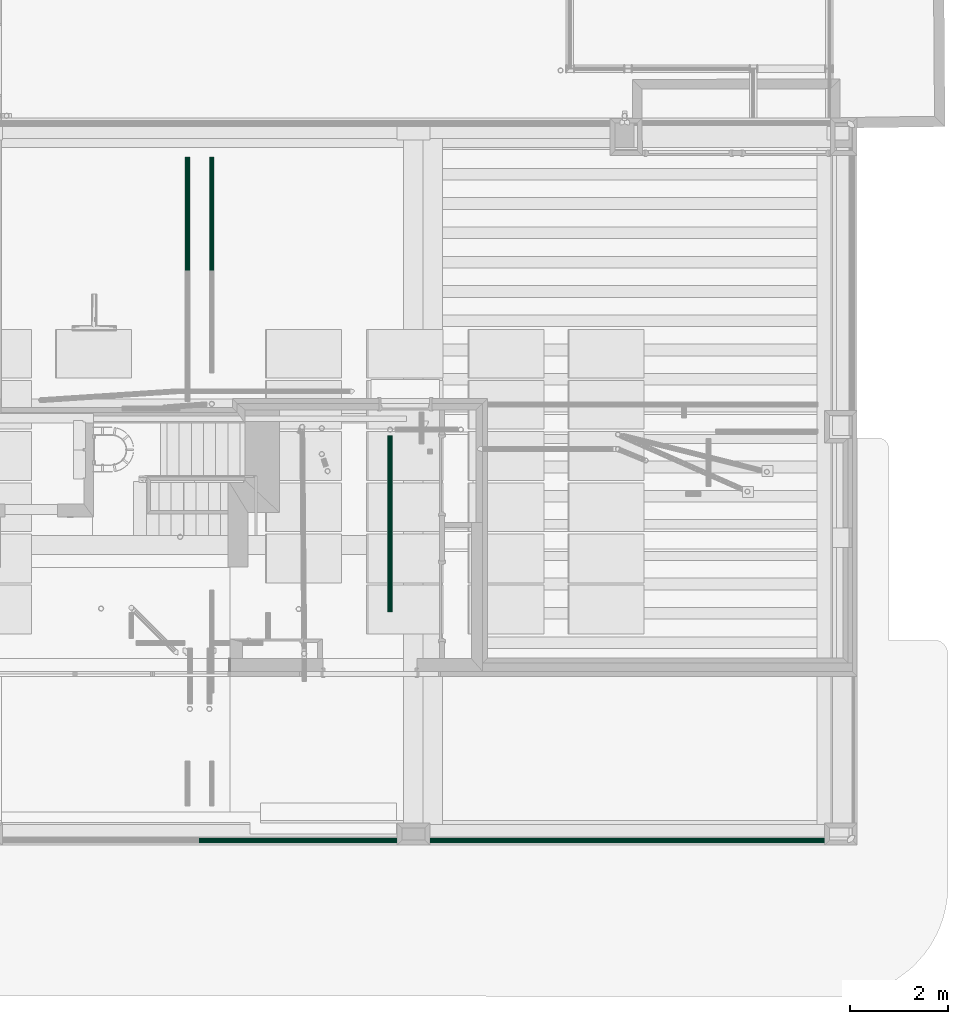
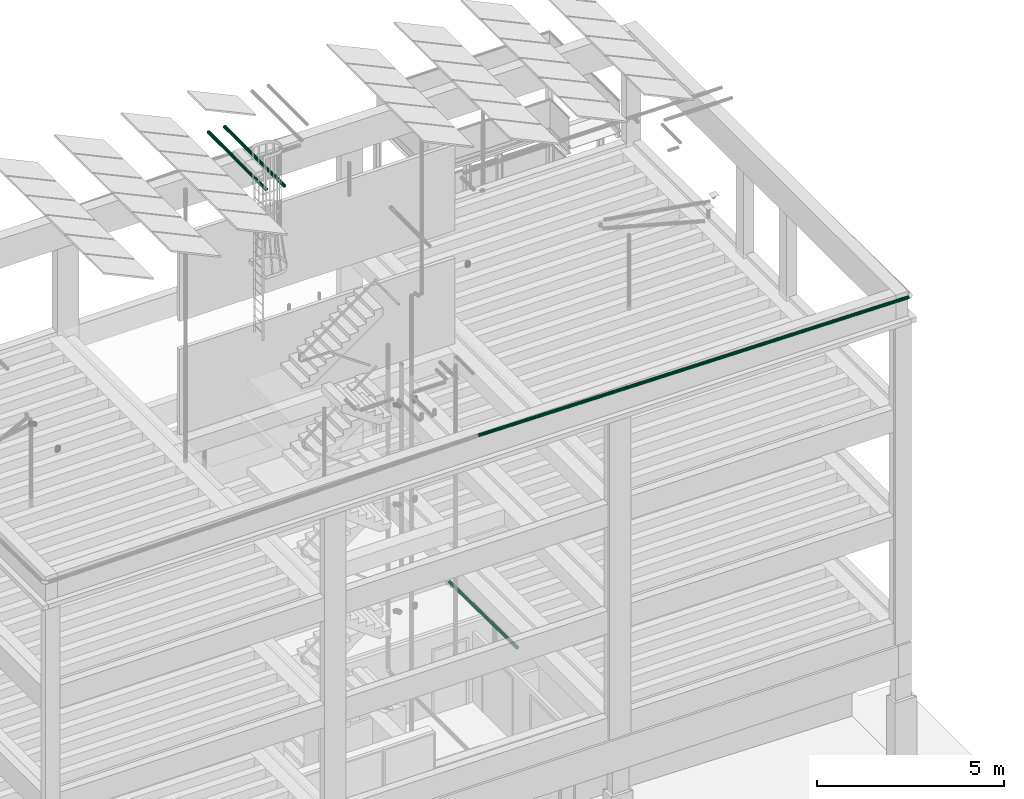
# One storey, part 58 of 106: 4 flow segments.
"""IFC2X3 building model written with IfcOpenShell, lengths in metres."""

from ifc_helpers import new_model, entity, si_unit, converted_unit, derived_unit, money_unit, direction, frame, origin_with_axes, place, context, subcontext, project, spatial, faceted_brep, material, type_object, element, save


model = new_model("IFC2X3")

# Units and contexts
model_context = context("Model", 3, precision=1e-05, world=origin_with_axes(), true_north=direction((0.0, 1.0)))
body_context = subcontext(model_context, "Body", "Model", "MODEL_VIEW", scale=1.0)
ifc_project = project(units=[si_unit("LENGTHUNIT", "METRE"), si_unit("AREAUNIT", "SQUARE_METRE"), si_unit("VOLUMEUNIT", "CUBIC_METRE"), si_unit("ABSORBEDDOSEUNIT", "GRAY"), si_unit("AMOUNTOFSUBSTANCEUNIT", "MOLE"), si_unit("DOSEEQUIVALENTUNIT", "SIEVERT"), si_unit("ELECTRICCAPACITANCEUNIT", "FARAD"), si_unit("ELECTRICCHARGEUNIT", "COULOMB"), si_unit("ELECTRICCONDUCTANCEUNIT", "SIEMENS"), si_unit("ELECTRICCURRENTUNIT", "AMPERE"), si_unit("ELECTRICRESISTANCEUNIT", "OHM"), si_unit("ELECTRICVOLTAGEUNIT", "VOLT"), si_unit("ENERGYUNIT", "JOULE"), si_unit("FORCEUNIT", "NEWTON"), si_unit("FREQUENCYUNIT", "HERTZ"), si_unit("ILLUMINANCEUNIT", "LUX"), si_unit("INDUCTANCEUNIT", "HENRY"), si_unit("LUMINOUSFLUXUNIT", "LUMEN"), si_unit("LUMINOUSINTENSITYUNIT", "CANDELA"), si_unit("MAGNETICFLUXDENSITYUNIT", "TESLA"), si_unit("MAGNETICFLUXUNIT", "WEBER"), si_unit("MASSUNIT", "GRAM"), converted_unit("PLANEANGLEUNIT", "degree", entity("IfcReal", 0.0174532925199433), si_unit("PLANEANGLEUNIT", "RADIAN"), dimensions=[0, 0, 0, 0, 0, 0, 0]), si_unit("POWERUNIT", "WATT"), si_unit("PRESSUREUNIT", "PASCAL"), si_unit("RADIOACTIVITYUNIT", "BECQUEREL"), si_unit("SOLIDANGLEUNIT", "STERADIAN"), si_unit("THERMODYNAMICTEMPERATUREUNIT", "KELVIN"), si_unit("TIMEUNIT", "SECOND"), derived_unit("ACCELERATIONUNIT", [(si_unit("LENGTHUNIT", "METRE"), 1), (si_unit("TIMEUNIT", "SECOND"), -2)]), derived_unit("ANGULARVELOCITYUNIT", [(converted_unit("PLANEANGLEUNIT", "degree", entity("IfcReal", 0.0174532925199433), si_unit("PLANEANGLEUNIT", "RADIAN"), dimensions=[0, 0, 0, 0, 0, 0, 0]), 1), (si_unit("TIMEUNIT", "SECOND"), -1)]), derived_unit("CURVATUREUNIT", [(converted_unit("PLANEANGLEUNIT", "degree", entity("IfcReal", 0.0174532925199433), si_unit("PLANEANGLEUNIT", "RADIAN"), dimensions=[0, 0, 0, 0, 0, 0, 0]), 1), (si_unit("LENGTHUNIT", "METRE"), -1)]), derived_unit("DYNAMICVISCOSITYUNIT", [(si_unit("PRESSUREUNIT", "PASCAL"), 1), (si_unit("TIMEUNIT", "SECOND"), 1)]), derived_unit("HEATFLUXDENSITYUNIT", [(si_unit("POWERUNIT", "WATT"), 1), (si_unit("LENGTHUNIT", "METRE"), -2)]), derived_unit("HEATINGVALUEUNIT", [(si_unit("ENERGYUNIT", "JOULE"), 1), (si_unit("MASSUNIT", "GRAM"), -1)]), derived_unit("INTEGERCOUNTRATEUNIT", [(si_unit("TIMEUNIT", "SECOND"), -1)]), derived_unit("IONCONCENTRATIONUNIT", [(si_unit("MASSUNIT", "GRAM"), 1), (si_unit("VOLUMEUNIT", "CUBIC_METRE"), -1)]), derived_unit("ISOTHERMALMOISTURECAPACITYUNIT", [(si_unit("VOLUMEUNIT", "CUBIC_METRE"), 1), (si_unit("MASSUNIT", "GRAM"), -1)]), derived_unit("KINEMATICVISCOSITYUNIT", [(si_unit("AREAUNIT", "SQUARE_METRE"), 1), (si_unit("TIMEUNIT", "SECOND"), -1)]), derived_unit("LINEARFORCEUNIT", [(si_unit("FORCEUNIT", "NEWTON"), 1), (si_unit("LENGTHUNIT", "METRE"), -1)]), derived_unit("LINEARMOMENTUNIT", [(si_unit("FORCEUNIT", "NEWTON"), 1), (si_unit("LENGTHUNIT", "METRE"), -1)]), derived_unit("LINEARSTIFFNESSUNIT", [(si_unit("FORCEUNIT", "NEWTON"), 1), (si_unit("LENGTHUNIT", "METRE"), -1)]), derived_unit("LINEARVELOCITYUNIT", [(si_unit("LENGTHUNIT", "METRE"), 1), (si_unit("TIMEUNIT", "SECOND"), -1)]), derived_unit("LUMINOUSINTENSITYDISTRIBUTIONUNIT", [(si_unit("LUMINOUSINTENSITYUNIT", "CANDELA"), 1), (si_unit("LUMINOUSFLUXUNIT", "LUMEN"), -1)]), derived_unit("MASSDENSITYUNIT", [(si_unit("MASSUNIT", "GRAM"), 1), (si_unit("VOLUMEUNIT", "CUBIC_METRE"), -1)]), derived_unit("MASSFLOWRATEUNIT", [(si_unit("MASSUNIT", "GRAM"), 1), (si_unit("TIMEUNIT", "SECOND"), -1)]), derived_unit("MASSPERLENGTHUNIT", [(si_unit("MASSUNIT", "GRAM"), 1), (si_unit("LENGTHUNIT", "METRE"), -1)]), derived_unit("MODULUSOFELASTICITYUNIT", [(si_unit("FORCEUNIT", "NEWTON"), 1), (si_unit("AREAUNIT", "SQUARE_METRE"), -1)]), derived_unit("MODULUSOFLINEARSUBGRADEREACTIONUNIT", [(si_unit("FORCEUNIT", "NEWTON"), 1), (si_unit("LENGTHUNIT", "METRE"), -2)]), derived_unit("MODULUSOFROTATIONALSUBGRADEREACTIONUNIT", [(si_unit("FORCEUNIT", "NEWTON"), 1), (si_unit("LENGTHUNIT", "METRE"), 1)]), derived_unit("MODULUSOFSUBGRADEREACTIONUNIT", [(si_unit("FORCEUNIT", "NEWTON"), 1), (si_unit("VOLUMEUNIT", "CUBIC_METRE"), -1)]), derived_unit("MOISTUREDIFFUSIVITYUNIT", [(si_unit("VOLUMEUNIT", "CUBIC_METRE"), 1), (si_unit("TIMEUNIT", "SECOND"), -1)]), derived_unit("MOLECULARWEIGHTUNIT", [(si_unit("MASSUNIT", "GRAM"), 1), (si_unit("AMOUNTOFSUBSTANCEUNIT", "MOLE"), -1)]), derived_unit("PLANARFORCEUNIT", [(si_unit("FORCEUNIT", "NEWTON"), 1), (si_unit("LENGTHUNIT", "METRE"), -2)]), derived_unit("ROTATIONALFREQUENCYUNIT", [(si_unit("TIMEUNIT", "SECOND"), -1)]), derived_unit("ROTATIONALMASSUNIT", [(si_unit("MASSUNIT", "GRAM"), 1), (si_unit("LENGTHUNIT", "METRE"), 2)]), derived_unit("ROTATIONALSTIFFNESSUNIT", [(si_unit("FORCEUNIT", "NEWTON"), 1), (si_unit("LENGTHUNIT", "METRE"), 1), (converted_unit("PLANEANGLEUNIT", "degree", entity("IfcReal", 0.0174532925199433), si_unit("PLANEANGLEUNIT", "RADIAN"), dimensions=[0, 0, 0, 0, 0, 0, 0]), -1)]), derived_unit("SECTIONAREAINTEGRALUNIT", [(si_unit("LENGTHUNIT", "METRE"), 5)]), derived_unit("SECTIONMODULUSUNIT", [(si_unit("LENGTHUNIT", "METRE"), 3)]), derived_unit("SHEARMODULUSUNIT", [(si_unit("FORCEUNIT", "NEWTON"), 1), (si_unit("AREAUNIT", "SQUARE_METRE"), -1)]), derived_unit("SOUNDPOWERUNIT", [(si_unit("ENERGYUNIT", "JOULE"), 1), (si_unit("TIMEUNIT", "SECOND"), -1)]), derived_unit("SPECIFICHEATCAPACITYUNIT", [(si_unit("FORCEUNIT", "NEWTON"), 1), (si_unit("MASSUNIT", "GRAM"), -1), (si_unit("THERMODYNAMICTEMPERATUREUNIT", "KELVIN"), -1)]), derived_unit("TEMPERATUREGRADIENTUNIT", [(si_unit("THERMODYNAMICTEMPERATUREUNIT", "KELVIN"), 1), (si_unit("LENGTHUNIT", "METRE"), -1)]), derived_unit("THERMALADMITTANCEUNIT", [(si_unit("POWERUNIT", "WATT"), 1), (si_unit("AREAUNIT", "SQUARE_METRE"), -1), (si_unit("THERMODYNAMICTEMPERATUREUNIT", "KELVIN"), -1)]), derived_unit("THERMALCONDUCTANCEUNIT", [(si_unit("POWERUNIT", "WATT"), 1), (si_unit("LENGTHUNIT", "METRE"), -1), (si_unit("THERMODYNAMICTEMPERATUREUNIT", "KELVIN"), -1)]), derived_unit("THERMALEXPANSIONCOEFFICIENTUNIT", [(si_unit("THERMODYNAMICTEMPERATUREUNIT", "KELVIN"), -1)]), derived_unit("THERMALRESISTANCEUNIT", [(si_unit("AREAUNIT", "SQUARE_METRE"), 1), (si_unit("POWERUNIT", "WATT"), -1)]), derived_unit("THERMALTRANSMITTANCEUNIT", [(si_unit("POWERUNIT", "WATT"), 1), (si_unit("AREAUNIT", "SQUARE_METRE"), -1), (si_unit("THERMODYNAMICTEMPERATUREUNIT", "KELVIN"), -1)]), derived_unit("TORQUEUNIT", [(si_unit("FORCEUNIT", "NEWTON"), 1), (si_unit("LENGTHUNIT", "METRE"), 1)]), derived_unit("VAPORPERMEABILITYUNIT", [(si_unit("MASSUNIT", "GRAM"), 1), (si_unit("TIMEUNIT", "SECOND"), -1)]), derived_unit("VOLUMETRICFLOWRATEUNIT", [(si_unit("VOLUMEUNIT", "CUBIC_METRE"), 1), (si_unit("TIMEUNIT", "SECOND"), -1)]), derived_unit("WARPINGCONSTANTUNIT", [(si_unit("LENGTHUNIT", "METRE"), 6)]), derived_unit("WARPINGMOMENTUNIT", [(si_unit("FORCEUNIT", "NEWTON"), 1), (si_unit("LENGTHUNIT", "METRE"), 2)]), money_unit("GBP")], contexts=[model_context])

# Site, building, storey
site_placement = place(None, origin_with_axes())
site = spatial("IfcSite", under=ifc_project, at=site_placement, Name="Site", CompositionType="ELEMENT")
building_placement = place(site_placement, origin_with_axes())
building = spatial("IfcBuilding", under=site, at=building_placement, Name="Building01", CompositionType="ELEMENT")
storey_placement = place(building_placement, origin_with_axes())
storey = spatial("IfcBuildingStorey", under=building, at=storey_placement, Name="GF", CompositionType="ELEMENT", Elevation=0.0)

# Flow segments
ifc_material_1 = material(Name="M_BSUK_Ventilation")
duct_segment_type = type_object("IfcDuctSegmentType", Name="M-RoundDuct", PredefinedType="RIGIDSEGMENT")
flow_segment_1_placement = place(storey_placement, frame((13.75, 10.892736, 17.28), z_axis=(0.0, 0.0, 1.0), x_axis=(0.0, 1.0, 0.0)))
element("IfcFlowSegment", 1, at=flow_segment_1_placement, inside=storey, type_object=duct_segment_type, material=ifc_material_1, Name="M-RoundDuct", ObjectType="M-RoundDuct", context=body_context, shape_type="Brep", body=[
    faceted_brep([(3.209545, 0.0, -0.05), (0.0, 0.0, -0.05), (0.0, 0.019134, -0.046194), (3.209545, 0.019134, -0.046194), (0.0, 0.035355, -0.035355), (3.209545, 0.035355, -0.035355), (0.0, 0.046194, -0.019134), (3.209545, 0.046194, -0.019134), (0.0, 0.05, 0.0), (3.209545, 0.05, 0.0), (0.0, 0.046194, 0.019134), (3.209545, 0.046194, 0.019134), (0.0, 0.035355, 0.035355), (3.209545, 0.035355, 0.035355), (0.0, 0.019134, 0.046194), (3.209545, 0.019134, 0.046194), (0.0, 0.0, 0.05), (3.209545, 0.0, 0.05), (0.0, -0.019134, 0.046194), (3.209545, -0.019134, 0.046194), (0.0, -0.035355, 0.035355), (3.209545, -0.035355, 0.035355), (0.0, -0.046194, 0.019134), (3.209545, -0.046194, 0.019134), (0.0, -0.05, 0.0), (3.209545, -0.05, 0.0), (0.0, -0.046194, -0.019134), (3.209545, -0.046194, -0.019134), (0.0, -0.035355, -0.035355), (3.209545, -0.035355, -0.035355), (0.0, -0.019134, -0.046194), (3.209545, -0.019134, -0.046194)], [[[0, 1, 2, 3]], [[3, 2, 4, 5]], [[5, 4, 6, 7]], [[7, 6, 8, 9]], [[9, 8, 10, 11]], [[11, 10, 12, 13]], [[13, 12, 14, 15]], [[15, 14, 16, 17]], [[17, 16, 18, 19]], [[19, 18, 20, 21]], [[21, 20, 22, 23]], [[23, 22, 24, 25]], [[25, 24, 26, 27]], [[27, 26, 28, 29]], [[29, 28, 30, 31]], [[31, 30, 1, 0]]]),
])
flow_segment_2_placement = place(storey_placement, frame((13.25, 10.993347, 17.28), z_axis=(0.0, 0.0, 1.0), x_axis=(0.0, 1.0, 0.0)))
element("IfcFlowSegment", 2, at=flow_segment_2_placement, inside=storey, type_object=duct_segment_type, material=ifc_material_1, Name="M-RoundDuct", ObjectType="M-RoundDuct", context=body_context, shape_type="Brep", body=[
    faceted_brep([(3.108933, 0.0, -0.05), (0.0, 0.0, -0.05), (0.0, 0.019134, -0.046194), (3.108933, 0.019134, -0.046194), (0.0, 0.035355, -0.035355), (3.108933, 0.035355, -0.035355), (0.0, 0.046194, -0.019134), (3.108933, 0.046194, -0.019134), (0.0, 0.05, 0.0), (3.108933, 0.05, 0.0), (0.0, 0.046194, 0.019134), (3.108933, 0.046194, 0.019134), (0.0, 0.035355, 0.035355), (3.108933, 0.035355, 0.035355), (0.0, 0.019134, 0.046194), (3.108933, 0.019134, 0.046194), (0.0, 0.0, 0.05), (3.108933, 0.0, 0.05), (0.0, -0.019134, 0.046194), (3.108933, -0.019134, 0.046194), (0.0, -0.035355, 0.035355), (3.108933, -0.035355, 0.035355), (0.0, -0.046194, 0.019134), (3.108933, -0.046194, 0.019134), (0.0, -0.05, 0.0), (3.108933, -0.05, 0.0), (0.0, -0.046194, -0.019134), (3.108933, -0.046194, -0.019134), (0.0, -0.035355, -0.035355), (3.108933, -0.035355, -0.035355), (0.0, -0.019134, -0.046194), (3.108933, -0.019134, -0.046194)], [[[0, 1, 2, 3]], [[3, 2, 4, 5]], [[5, 4, 6, 7]], [[7, 6, 8, 9]], [[9, 8, 10, 11]], [[11, 10, 12, 13]], [[13, 12, 14, 15]], [[15, 14, 16, 17]], [[17, 16, 18, 19]], [[19, 18, 20, 21]], [[21, 20, 22, 23]], [[23, 22, 24, 25]], [[25, 24, 26, 27]], [[27, 26, 28, 29]], [[29, 28, 30, 31]], [[31, 30, 1, 0]]]),
])
ifc_material_2 = material(Name="M_BSUK_ColdWater")
pipe_segment_type = type_object("IfcPipeSegmentType", Name="M-BmpStraightpipe-DefaultPipe", PredefinedType="RIGIDSEGMENT")
flow_segment_3_placement = place(storey_placement, frame((17.405981, 4.775544, 4.639603), z_axis=(0.0, 0.01249902, 0.99992188), x_axis=(0.0, 0.99992188, -0.01249902)))
element("IfcFlowSegment", 3, at=flow_segment_3_placement, inside=storey, type_object=pipe_segment_type, material=ifc_material_2, Name="M-BmpStraightpipe-DefaultPipe", ObjectType="M-BmpStraightpipe-DefaultPipe", context=body_context, shape_type="Brep", body=[
    faceted_brep([(3.622025, 0.0, -0.05), (0.0, 0.0, -0.05), (0.0, 0.019134, -0.046194), (3.622025, 0.019134, -0.046194), (0.0, 0.035355, -0.035355), (3.622025, 0.035355, -0.035355), (0.0, 0.046194, -0.019134), (3.622025, 0.046194, -0.019134), (0.0, 0.05, 0.0), (3.622025, 0.05, 0.0), (0.0, 0.046194, 0.019134), (3.622025, 0.046194, 0.019134), (0.0, 0.035355, 0.035355), (3.622025, 0.035355, 0.035355), (0.0, 0.019134, 0.046194), (3.622025, 0.019134, 0.046194), (0.0, 0.0, 0.05), (3.622025, 0.0, 0.05), (0.0, -0.019134, 0.046194), (3.622025, -0.019134, 0.046194), (0.0, -0.035355, 0.035355), (3.622025, -0.035355, 0.035355), (0.0, -0.046194, 0.019134), (3.622025, -0.046194, 0.019134), (0.0, -0.05, 0.0), (3.622025, -0.05, 0.0), (0.0, -0.046194, -0.019134), (3.622025, -0.046194, -0.019134), (0.0, -0.035355, -0.035355), (3.622025, -0.035355, -0.035355), (0.0, -0.019134, -0.046194), (3.622025, -0.019134, -0.046194)], [[[0, 1, 2, 3]], [[3, 2, 4, 5]], [[5, 4, 6, 7]], [[7, 6, 8, 9]], [[9, 8, 10, 11]], [[11, 10, 12, 13]], [[13, 12, 14, 15]], [[15, 14, 16, 17]], [[17, 16, 18, 19]], [[19, 18, 20, 21]], [[21, 20, 22, 23]], [[23, 22, 24, 25]], [[25, 24, 26, 27]], [[27, 26, 28, 29]], [[29, 28, 30, 31]], [[31, 30, 1, 0]]]),
])
flow_segment_4_placement = place(storey_placement, frame((26.787005, 0.095, 15.640506), z_axis=(0.0, -1.0, 0.0), x_axis=(-0.99994498, 0.0, 0.01049024)))
element("IfcFlowSegment", 4, at=flow_segment_4_placement, inside=storey, type_object=pipe_segment_type, material=ifc_material_2, Name="M-BmpStraightpipe-DefaultPipe", ObjectType="M-BmpStraightpipe-DefaultPipe", context=body_context, shape_type="Brep", body=[
    faceted_brep([(13.297212, 0.0, -0.05), (0.0, 0.0, -0.05), (0.0, 0.019134, -0.046194), (13.297212, 0.019134, -0.046194), (0.0, 0.035355, -0.035355), (13.297212, 0.035355, -0.035355), (0.0, 0.046194, -0.019134), (13.297212, 0.046194, -0.019134), (0.0, 0.05, 0.0), (13.297212, 0.05, 0.0), (0.0, 0.046194, 0.019134), (13.297212, 0.046194, 0.019134), (0.0, 0.035355, 0.035355), (13.297212, 0.035355, 0.035355), (0.0, 0.019134, 0.046194), (13.297212, 0.019134, 0.046194), (0.0, 0.0, 0.05), (13.297212, 0.0, 0.05), (0.0, -0.019134, 0.046194), (13.297212, -0.019134, 0.046194), (0.0, -0.035355, 0.035355), (13.297212, -0.035355, 0.035355), (0.0, -0.046194, 0.019134), (13.297212, -0.046194, 0.019134), (0.0, -0.05, 0.0), (13.297212, -0.05, 0.0), (0.0, -0.046194, -0.019134), (13.297212, -0.046194, -0.019134), (0.0, -0.035355, -0.035355), (13.297212, -0.035355, -0.035355), (0.0, -0.019134, -0.046194), (13.297212, -0.019134, -0.046194)], [[[0, 1, 2, 3]], [[3, 2, 4, 5]], [[5, 4, 6, 7]], [[7, 6, 8, 9]], [[9, 8, 10, 11]], [[11, 10, 12, 13]], [[13, 12, 14, 15]], [[15, 14, 16, 17]], [[17, 16, 18, 19]], [[19, 18, 20, 21]], [[21, 20, 22, 23]], [[23, 22, 24, 25]], [[25, 24, 26, 27]], [[27, 26, 28, 29]], [[29, 28, 30, 31]], [[31, 30, 1, 0]]]),
])

save(model, "model.ifc")
